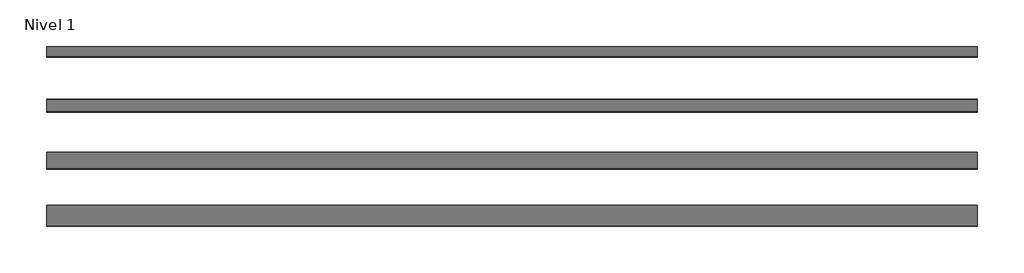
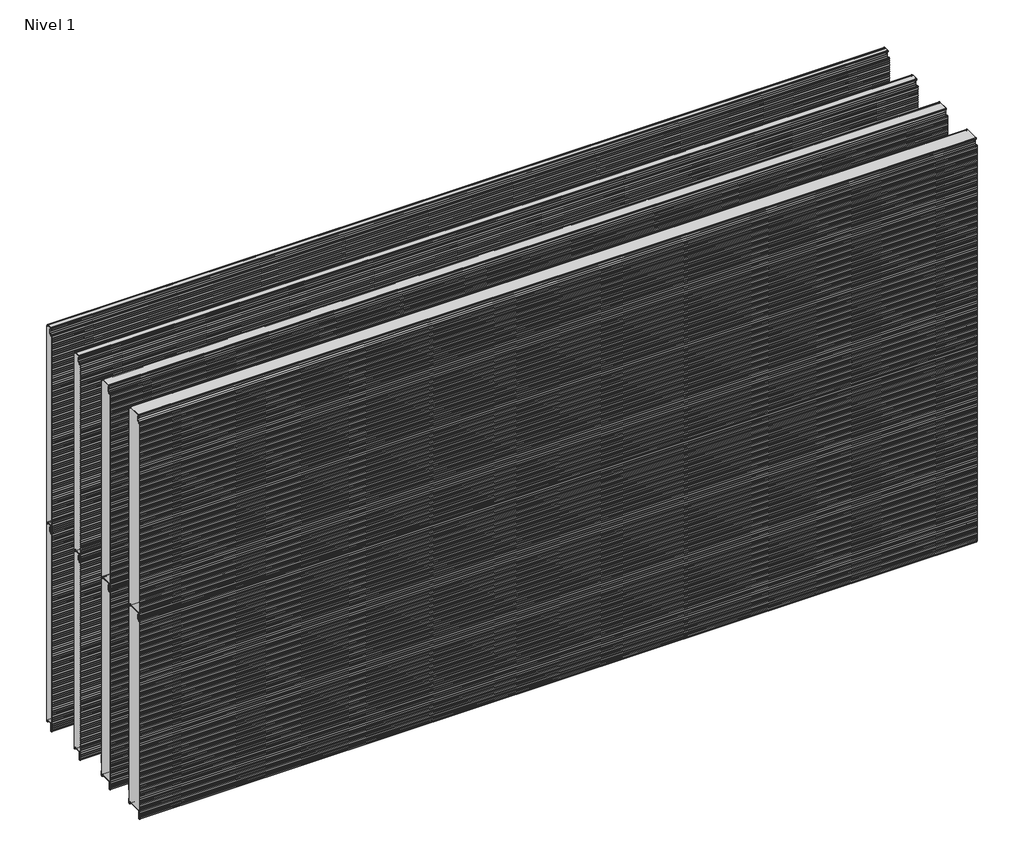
# One storey, incomplete: 8 plates.
"""IFC4 building model written with IfcOpenShell, lengths in millimetres."""

from ifc_helpers import new_model, si_unit, origin, place, context, project, spatial, transform, mapped, element, save
from components import plate_100_mm_1e766065, plate_50_mm_21d456d9, plate_60_mm_c00890b3, plate_80_mm_c5f50b2e

model = new_model("IFC4")

# Units and contexts
model_context = context("Model", 3, world=origin())
ifc_project = project(units=[si_unit("LENGTHUNIT", "METRE", prefix="MILLI")], contexts=[model_context])

# Site, building, storey
site = spatial("IfcSite", under=ifc_project)
building = spatial("IfcBuilding", under=site)
storey = spatial("IfcBuildingStorey", under=building, Name="Nivel 1", Elevation=0.0)

# Plates
placement = place(None, origin())
plate_100_mm_shape = plate_100_mm_1e766065(model_context)
element("IfcPlate", 1, ObjectType="HIANSA PANEL - H20.F05.001-HFM-PANELES DE FACHADA HOR - PANEL MICROPERFILADO - Panel de Muro Cortina : 100 mm", at=placement, inside=storey, context=model_context, shape_type="MappedRepresentation", body=[
    mapped(plate_100_mm_shape, transform((6468.14367, 17686.5269271, 0.0), x_axis=(1.0, 0.0, 0.0), y_axis=(0.0, 1.0, 0.0), z_axis=(0.0, 0.0, 1.0))),
])
element("IfcPlate", 2, ObjectType="HIANSA PANEL - H20.F05.001-HFM-PANELES DE FACHADA HOR - PANEL MICROPERFILADO - Panel de Muro Cortina : 100 mm", at=placement, inside=storey, context=model_context, shape_type="MappedRepresentation", body=[
    mapped(plate_100_mm_shape, transform((6468.14367, 17686.5269271, 1100.0), x_axis=(1.0, 0.0, 0.0), y_axis=(0.0, 1.0, 0.0), z_axis=(0.0, 0.0, 1.0))),
])
plate_50_mm_shape = plate_50_mm_21d456d9(model_context)
element("IfcPlate", 3, ObjectType="HIANSA PANEL - H20.F05.001-HFM-PANELES DE FACHADA HOR - PANEL MICROPERFILADO - Panel de Muro Cortina : 50 mm", at=placement, inside=storey, context=model_context, shape_type="MappedRepresentation", body=[
    mapped(plate_50_mm_shape, transform((6468.14367, 18436.5269271, 0.0), x_axis=(1.0, 0.0, 0.0), y_axis=(0.0, 1.0, 0.0), z_axis=(0.0, 0.0, 1.0))),
])
element("IfcPlate", 4, ObjectType="HIANSA PANEL - H20.F05.001-HFM-PANELES DE FACHADA HOR - PANEL MICROPERFILADO - Panel de Muro Cortina : 50 mm", at=placement, inside=storey, context=model_context, shape_type="MappedRepresentation", body=[
    mapped(plate_50_mm_shape, transform((6468.14367, 18436.5269271, 1100.0), x_axis=(1.0, 0.0, 0.0), y_axis=(0.0, 1.0, 0.0), z_axis=(0.0, 0.0, 1.0))),
])
plate_60_mm_shape = plate_60_mm_c00890b3(model_context)
element("IfcPlate", 5, ObjectType="HIANSA PANEL - H20.F05.001-HFM-PANELES DE FACHADA HOR - PANEL MICROPERFILADO - Panel de Muro Cortina : 60 mm", at=placement, inside=storey, context=model_context, shape_type="MappedRepresentation", body=[
    mapped(plate_60_mm_shape, transform((6468.14367, 18186.5269271, 0.0), x_axis=(1.0, 0.0, 0.0), y_axis=(0.0, 1.0, 0.0), z_axis=(0.0, 0.0, 1.0))),
])
element("IfcPlate", 6, ObjectType="HIANSA PANEL - H20.F05.001-HFM-PANELES DE FACHADA HOR - PANEL MICROPERFILADO - Panel de Muro Cortina : 60 mm", at=placement, inside=storey, context=model_context, shape_type="MappedRepresentation", body=[
    mapped(plate_60_mm_shape, transform((6468.14367, 18186.5269271, 1100.0), x_axis=(1.0, 0.0, 0.0), y_axis=(0.0, 1.0, 0.0), z_axis=(0.0, 0.0, 1.0))),
])
plate_80_mm_shape = plate_80_mm_c5f50b2e(model_context)
element("IfcPlate", 7, ObjectType="HIANSA PANEL - H20.F05.001-HFM-PANELES DE FACHADA HOR - PANEL MICROPERFILADO - Panel de Muro Cortina : 80 mm", at=placement, inside=storey, context=model_context, shape_type="MappedRepresentation", body=[
    mapped(plate_80_mm_shape, transform((6468.14367, 17936.5269271, 0.0), x_axis=(1.0, 0.0, 0.0), y_axis=(0.0, 1.0, 0.0), z_axis=(0.0, 0.0, 1.0))),
])
element("IfcPlate", 8, ObjectType="HIANSA PANEL - H20.F05.001-HFM-PANELES DE FACHADA HOR - PANEL MICROPERFILADO - Panel de Muro Cortina : 80 mm", at=placement, inside=storey, context=model_context, shape_type="MappedRepresentation", body=[
    mapped(plate_80_mm_shape, transform((6468.14367, 17936.5269271, 1100.0), x_axis=(1.0, 0.0, 0.0), y_axis=(0.0, 1.0, 0.0), z_axis=(0.0, 0.0, 1.0))),
])

save(model, "model.ifc")
